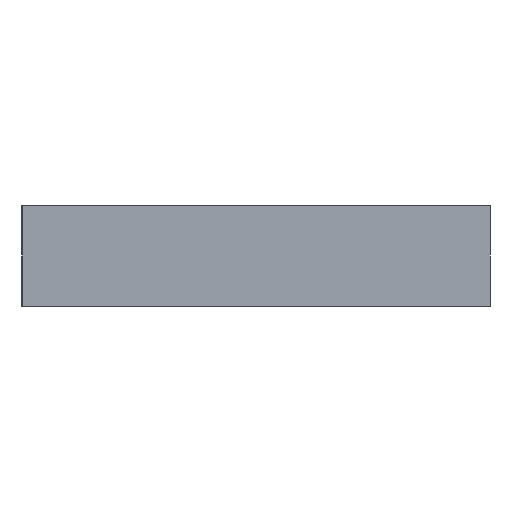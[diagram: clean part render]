
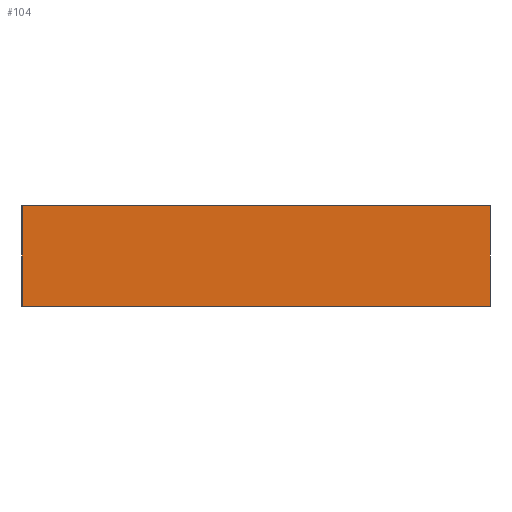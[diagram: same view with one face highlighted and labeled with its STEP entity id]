
A CAD part, left-side view. The second image highlights one B-rep face of the part: STEP entity #104.
In plain terms, the highlighted planar face has unit normal (-1, 0, 0).
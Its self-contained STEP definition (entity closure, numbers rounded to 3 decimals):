
#18=FACE_OUTER_BOUND('',#24,.T.);
#24=EDGE_LOOP('',(#83,#84,#85,#86));
#32=LINE('',#167,#44);
#35=LINE('',#172,#47);
#36=LINE('',#175,#48);
#37=LINE('',#176,#49);
#44=VECTOR('',#138,10.);
#47=VECTOR('',#143,10.);
#48=VECTOR('',#146,10.);
#49=VECTOR('',#147,10.);
#55=VERTEX_POINT('',#164);
#56=VERTEX_POINT('',#166);
#57=VERTEX_POINT('',#170);
#58=VERTEX_POINT('',#174);
#64=EDGE_CURVE('',#55,#56,#32,.T.);
#67=EDGE_CURVE('',#57,#55,#35,.T.);
#68=EDGE_CURVE('',#58,#57,#36,.T.);
#69=EDGE_CURVE('',#56,#58,#37,.T.);
#83=ORIENTED_EDGE('',*,*,#67,.F.);
#84=ORIENTED_EDGE('',*,*,#68,.F.);
#85=ORIENTED_EDGE('',*,*,#69,.F.);
#86=ORIENTED_EDGE('',*,*,#64,.F.);
#98=PLANE('',#124);
#104=ADVANCED_FACE('',(#18),#98,.F.);
#124=AXIS2_PLACEMENT_3D('',#173,#144,#145);
#138=DIRECTION('',(0.,0.,-1.));
#143=DIRECTION('',(0.,-1.,0.));
#144=DIRECTION('center_axis',(1.,0.,0.));
#145=DIRECTION('ref_axis',(0.,-1.,0.));
#146=DIRECTION('',(0.,0.,1.));
#147=DIRECTION('',(0.,1.,0.));
#164=CARTESIAN_POINT('',(-59.116,-9.248,3.));
#166=CARTESIAN_POINT('',(-59.116,-9.248,0.));
#167=CARTESIAN_POINT('',(-59.116,-9.248,1.5));
#170=CARTESIAN_POINT('',(-59.116,4.752,3.));
#172=CARTESIAN_POINT('',(-59.116,1.252,3.));
#173=CARTESIAN_POINT('Origin',(-59.116,4.752,3.));
#174=CARTESIAN_POINT('',(-59.116,4.752,0.));
#175=CARTESIAN_POINT('',(-59.116,4.752,1.5));
#176=CARTESIAN_POINT('',(-59.116,1.252,0.));
